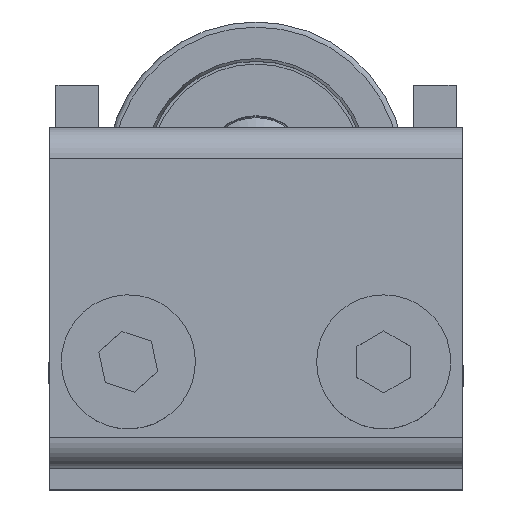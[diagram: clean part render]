
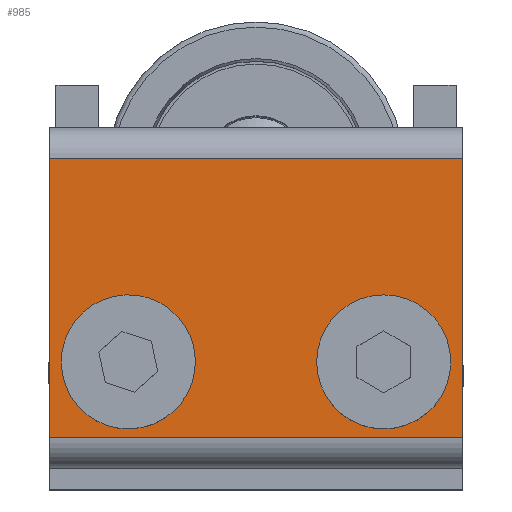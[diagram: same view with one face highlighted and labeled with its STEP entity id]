
A CAD part, top view. The second image highlights one B-rep face of the part: STEP entity #985.
In plain terms, the highlighted planar face has unit normal (0, 0, 1) as drawn and (0, 0, -1) by its records, which use the part's own axes.
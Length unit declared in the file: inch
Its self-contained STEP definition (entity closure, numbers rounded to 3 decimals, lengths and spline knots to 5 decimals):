
#645=DIRECTION('',(-1.,0.,0.));
#646=VECTOR('',#645,1.215);
#647=CARTESIAN_POINT('',(0.6075,0.41,-0.18));
#648=LINE('',#647,#646);
#679=DIRECTION('',(0.,-1.,0.));
#680=VECTOR('',#679,0.82);
#681=CARTESIAN_POINT('',(-0.6075,0.41,-0.18));
#682=LINE('',#681,#680);
#705=DIRECTION('',(0.,-1.,0.));
#706=VECTOR('',#705,0.82);
#707=CARTESIAN_POINT('',(0.6075,0.41,-0.18));
#708=LINE('',#707,#706);
#709=CARTESIAN_POINT('',(0.375,-0.188,-0.18));
#710=DIRECTION('',(0.,0.,1.));
#711=DIRECTION('',(1.,0.,0.));
#712=AXIS2_PLACEMENT_3D('',#709,#710,#711);
#714=CARTESIAN_POINT('',(0.375,-0.188,-0.18));
#715=DIRECTION('',(0.,0.,1.));
#716=DIRECTION('',(-1.,0.,0.));
#717=AXIS2_PLACEMENT_3D('',#714,#715,#716);
#719=CARTESIAN_POINT('',(-0.375,-0.188,-0.18));
#720=DIRECTION('',(0.,0.,1.));
#721=DIRECTION('',(1.,0.,0.));
#722=AXIS2_PLACEMENT_3D('',#719,#720,#721);
#724=CARTESIAN_POINT('',(-0.375,-0.188,-0.18));
#725=DIRECTION('',(0.,0.,1.));
#726=DIRECTION('',(-1.,0.,0.));
#727=AXIS2_PLACEMENT_3D('',#724,#725,#726);
#729=DIRECTION('',(1.,0.,0.));
#730=VECTOR('',#729,1.215);
#731=CARTESIAN_POINT('',(-0.6075,-0.41,-0.18));
#732=LINE('',#731,#730);
#830=CARTESIAN_POINT('',(0.5,-0.188,-0.18));
#832=VERTEX_POINT('',#830);
#836=CARTESIAN_POINT('',(-0.25,-0.188,-0.18));
#838=VERTEX_POINT('',#836);
#843=CARTESIAN_POINT('',(-0.5,-0.188,-0.18));
#844=VERTEX_POINT('',#843);
#847=CARTESIAN_POINT('',(0.6075,0.41,-0.18));
#849=VERTEX_POINT('',#847);
#855=CARTESIAN_POINT('',(0.25,-0.188,-0.18));
#856=VERTEX_POINT('',#855);
#863=CARTESIAN_POINT('',(0.6075,-0.41,-0.18));
#864=VERTEX_POINT('',#863);
#869=CARTESIAN_POINT('',(-0.6075,0.41,-0.18));
#870=CARTESIAN_POINT('',(-0.6075,-0.41,-0.18));
#871=VERTEX_POINT('',#869);
#872=VERTEX_POINT('',#870);
#961=CARTESIAN_POINT('',(0.6075,0.5,-0.18));
#962=DIRECTION('',(0.,0.,1.));
#963=DIRECTION('',(0.,-1.,0.));
#964=AXIS2_PLACEMENT_3D('',#961,#962,#963);
#965=PLANE('',#964);
#966=ORIENTED_EDGE('',*,*,#913,.F.);
#967=ORIENTED_EDGE('',*,*,#888,.T.);
#968=ORIENTED_EDGE('',*,*,#940,.T.);
#970=ORIENTED_EDGE('',*,*,#969,.T.);
#971=EDGE_LOOP('',(#966,#967,#968,#970));
#972=FACE_OUTER_BOUND('',#971,.F.);
#974=ORIENTED_EDGE('',*,*,#973,.F.);
#976=ORIENTED_EDGE('',*,*,#975,.F.);
#977=EDGE_LOOP('',(#974,#976));
#978=FACE_BOUND('',#977,.F.);
#980=ORIENTED_EDGE('',*,*,#979,.F.);
#982=ORIENTED_EDGE('',*,*,#981,.F.);
#983=EDGE_LOOP('',(#980,#982));
#984=FACE_BOUND('',#983,.F.);
#713=CIRCLE('',#712,0.125);
#718=CIRCLE('',#717,0.125);
#723=CIRCLE('',#722,0.125);
#728=CIRCLE('',#727,0.125);
#888=EDGE_CURVE('',#849,#871,#648,.T.);
#913=EDGE_CURVE('',#849,#864,#708,.T.);
#940=EDGE_CURVE('',#871,#872,#682,.T.);
#969=EDGE_CURVE('',#872,#864,#732,.T.);
#973=EDGE_CURVE('',#832,#856,#713,.T.);
#975=EDGE_CURVE('',#856,#832,#718,.T.);
#979=EDGE_CURVE('',#838,#844,#723,.T.);
#981=EDGE_CURVE('',#844,#838,#728,.T.);
#985=ADVANCED_FACE('',(#972,#978,#984),#965,.F.);
